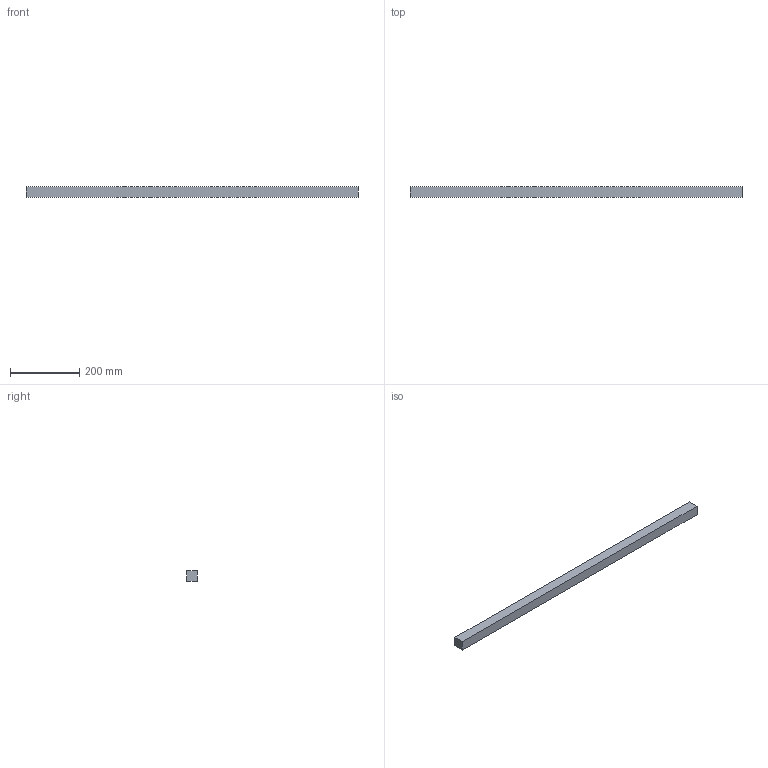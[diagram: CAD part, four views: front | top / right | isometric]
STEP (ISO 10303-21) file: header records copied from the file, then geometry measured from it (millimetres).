
FILE_DESCRIPTION(('Open CASCADE Model'),'2;1');
FILE_NAME('Open CASCADE Shape Model','2026-10-04T01:02:24',('Author'),( 'Open CASCADE'),'Open CASCADE STEP processor 8.0','Open CASCADE 8.0' ,'Unknown');
FILE_SCHEMA(('AUTOMOTIVE_DESIGN { 1 0 10303 214 1 1 1 1 }'));
Length unit declared in the file: millimetre
Products named in the file (1): Open CASCADE STEP translator 8.0 11
Bounding box: 960 x 30 x 30 mm (x, y, z)
Volume: 864000 mm3; surface area: 117000 mm2
Topology: 1 solids, 1 shells, 6 faces, 12 edges, 8 vertices
Faces by surface type: plane 6
Entity records: 322 total; most frequent: CARTESIAN_POINT 51, DIRECTION 50, LINE 36, VECTOR 36, ORIENTED_EDGE 24, PCURVE 24, DEFINITIONAL_REPRESENTATION 24, EDGE_CURVE 12
